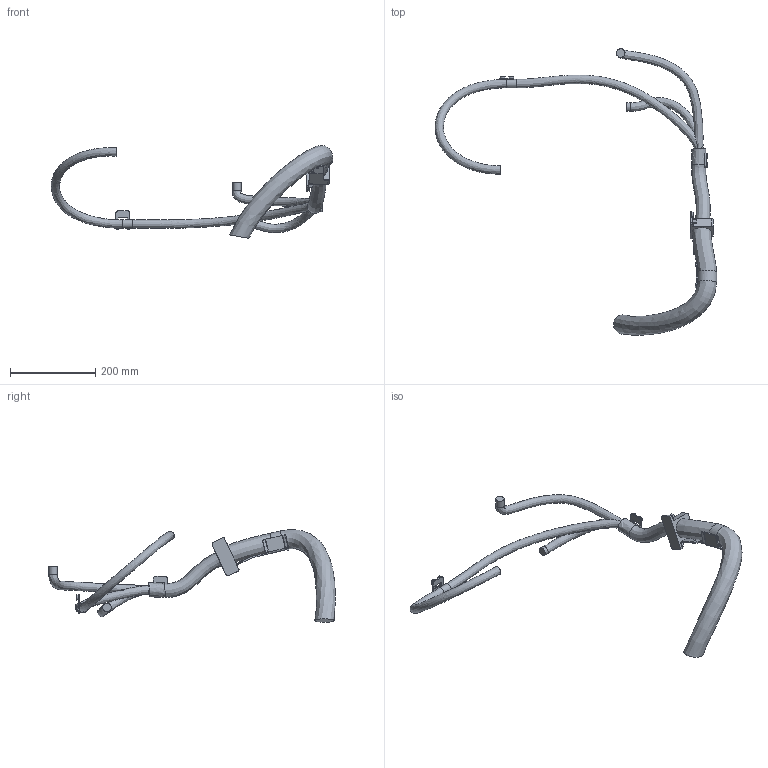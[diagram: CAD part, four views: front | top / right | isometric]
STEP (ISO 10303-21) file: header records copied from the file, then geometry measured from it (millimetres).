
FILE_DESCRIPTION (( 'STEP AP214' ), '1' );
FILE_NAME ('IRB6740-MH3_260kg-300_OC_00_LINK03m_CABLE.step', '2026-05-07T13:29:01', ( '' ), ( '' ), 'SwSTEP 2.0', 'SolidWorks 2024', '' );
FILE_SCHEMA (( 'AUTOMOTIVE_DESIGN' ));
Length unit declared in the file: millimetre
Products named in the file (1): IRB6740-MH3_260kg-300_OC_00_LINK03m_CABLE
Bounding box: 661.01 x 672.39 x 217.3 mm (x, y, z)
Volume: 1459847 mm3; surface area: 208411.9 mm2
Topology: 1 solids, 1 shells, 194 faces, 512 edges, 324 vertices
Faces by surface type: plane 117, cylinder 68, bspline 9
Full cylindrical faces by diameter (mm): 12 x6, 20 x3
Entity records: 10753 total; most frequent: CARTESIAN_POINT 3995, ORIENTED_EDGE 958, DIRECTION 942, EDGE_CURVE 479, AXIS2_PLACEMENT_3D 322, VERTEX_POINT 310, LINE 298, VECTOR 298
